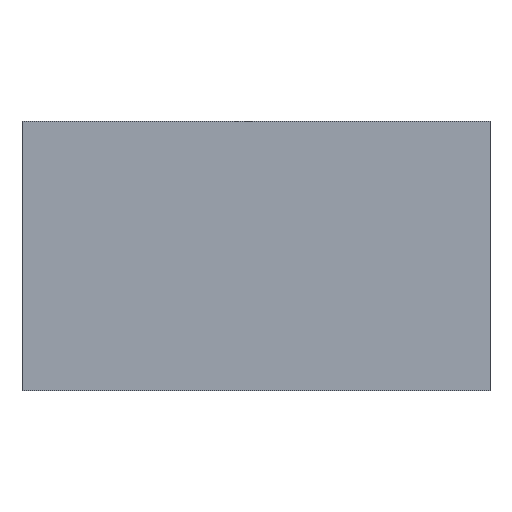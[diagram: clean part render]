
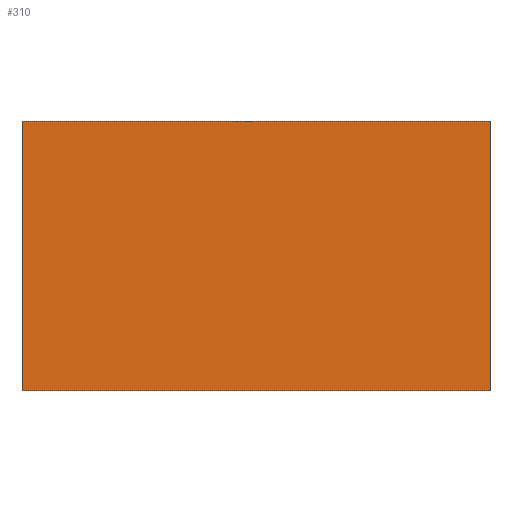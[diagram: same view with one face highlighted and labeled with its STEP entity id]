
A CAD part, front view. The second image highlights one B-rep face of the part: STEP entity #310.
In plain terms, the highlighted planar face has unit normal (0, -1, 0).
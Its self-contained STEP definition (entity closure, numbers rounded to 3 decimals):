
#2 = ORIENTED_EDGE ( 'NONE', *, *, #320, .F. ) ;
#3 = CARTESIAN_POINT ( 'NONE',  ( 1.959, 0., -10. ) ) ;
#6 = ORIENTED_EDGE ( 'NONE', *, *, #488, .F. ) ;
#50 = LINE ( 'NONE', #234, #85 ) ;
#70 = DIRECTION ( 'NONE',  ( 0., 0., 1. ) ) ;
#72 = CARTESIAN_POINT ( 'NONE',  ( 1.959, 0., -10. ) ) ;
#79 = VERTEX_POINT ( 'NONE', #393 ) ;
#83 = LINE ( 'NONE', #400, #148 ) ;
#85 = VECTOR ( 'NONE', #204, 1000. ) ;
#95 = CARTESIAN_POINT ( 'NONE',  ( 1.959, 0., 0. ) ) ;
#110 = CARTESIAN_POINT ( 'NONE',  ( 19.297, 0., -10. ) ) ;
#140 = EDGE_CURVE ( 'NONE', #79, #216, #500, .T. ) ;
#148 = VECTOR ( 'NONE', #242, 1000. ) ;
#177 = PLANE ( 'NONE',  #370 ) ;
#188 = DIRECTION ( 'NONE',  ( 0., -1., 0. ) ) ;
#204 = DIRECTION ( 'NONE',  ( 1., 0., 0. ) ) ;
#216 = VERTEX_POINT ( 'NONE', #355 ) ;
#234 = CARTESIAN_POINT ( 'NONE',  ( 19.297, 0., -10. ) ) ;
#242 = DIRECTION ( 'NONE',  ( 1., 0., 0. ) ) ;
#247 = FACE_OUTER_BOUND ( 'NONE', #492, .T. ) ;
#262 = DIRECTION ( 'NONE',  ( 0., 0., 1. ) ) ;
#279 = VECTOR ( 'NONE', #70, 1000. ) ;
#283 = VERTEX_POINT ( 'NONE', #95 ) ;
#310 = ADVANCED_FACE ( 'NONE', ( #247 ), #177, .T. ) ;
#315 = VECTOR ( 'NONE', #262, 1000. ) ;
#320 = EDGE_CURVE ( 'NONE', #349, #283, #381, .T. ) ;
#331 = ORIENTED_EDGE ( 'NONE', *, *, #493, .T. ) ;
#337 = CARTESIAN_POINT ( 'NONE',  ( 19.297, 0., -10. ) ) ;
#349 = VERTEX_POINT ( 'NONE', #72 ) ;
#355 = CARTESIAN_POINT ( 'NONE',  ( 19.297, 0., 0. ) ) ;
#370 = AXIS2_PLACEMENT_3D ( 'NONE', #337, #188, #474 ) ;
#381 = LINE ( 'NONE', #3, #279 ) ;
#393 = CARTESIAN_POINT ( 'NONE',  ( 19.297, 0., -10. ) ) ;
#400 = CARTESIAN_POINT ( 'NONE',  ( 19.297, 0., 0. ) ) ;
#443 = ORIENTED_EDGE ( 'NONE', *, *, #140, .T. ) ;
#474 = DIRECTION ( 'NONE',  ( 0., 0., -1. ) ) ;
#488 = EDGE_CURVE ( 'NONE', #283, #216, #83, .T. ) ;
#492 = EDGE_LOOP ( 'NONE', ( #6, #2, #331, #443 ) ) ;
#493 = EDGE_CURVE ( 'NONE', #349, #79, #50, .T. ) ;
#500 = LINE ( 'NONE', #110, #315 ) ;
